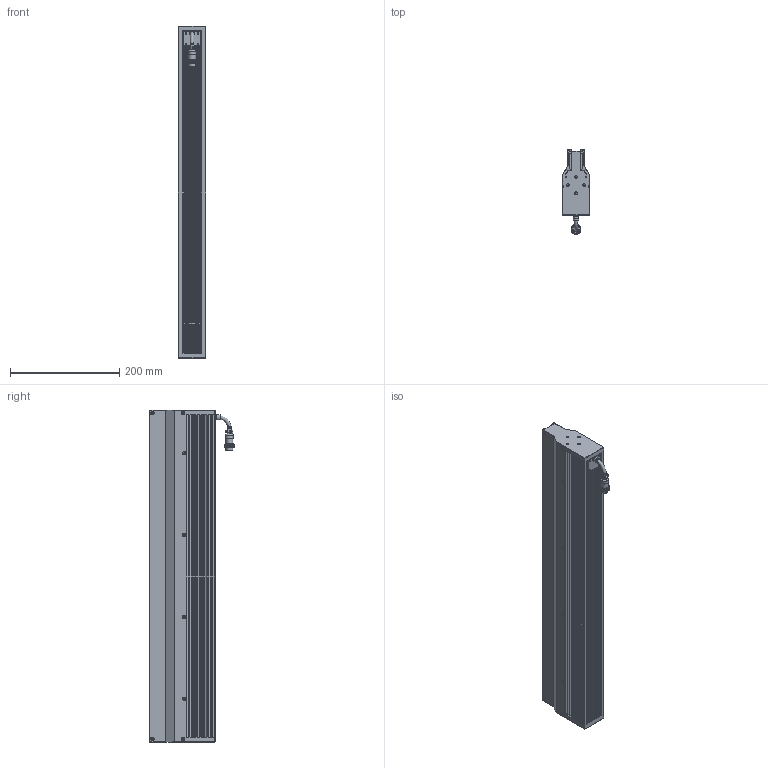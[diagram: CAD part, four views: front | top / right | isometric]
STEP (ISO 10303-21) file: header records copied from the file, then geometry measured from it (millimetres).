
FILE_DESCRIPTION (( 'STEP AP203' ), '1' );
FILE_NAME ('OPT-LSNL608-W-V1.1尨砩芞.STEP', '2025-02-18T03:05:37', ( '' ), ( '' ), 'SwSTEP 2.0', 'SolidWorks 2016', '' );
FILE_SCHEMA (( 'CONFIG_CONTROL_DESIGN' ));
Length unit declared in the file: millimetre
Products named in the file (1): OPT-LSNL608-W-V1.1尨砩芞
Bounding box: 50.01 x 155.15 x 608 mm (x, y, z)
Volume: 2196832.5 mm3; surface area: 730049.1 mm2
Topology: 5 solids, 10 shells, 3605 faces, 8212 edges, 4637 vertices
Faces by surface type: bspline 2059, cylinder 757, plane 742, cone 39, torus 8
Full cylindrical faces by diameter (mm): 0.95 x6, 1.1 x2, 1.4 x2, 2 x4, 2.5 x10, 3 x12, 3.4 x16, 3.5 x4, 5 x8, 6.4 x3, 7.5 x1, 8.6 x1, 9.3 x1, 9.8 x1, 10 x1, 13.2 x1, 14 x1, 16.1 x1
Entity records: 126186 total; most frequent: CARTESIAN_POINT 64844, ORIENTED_EDGE 16046, EDGE_CURVE 8023, DIRECTION 5943, B_SPLINE_CURVE_WITH_KNOTS 5589, VERTEX_POINT 4574, EDGE_LOOP 3797, FACE_OUTER_BOUND 3688
